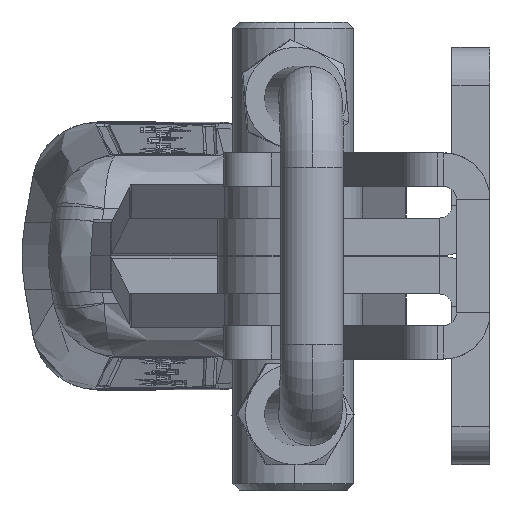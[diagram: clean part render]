
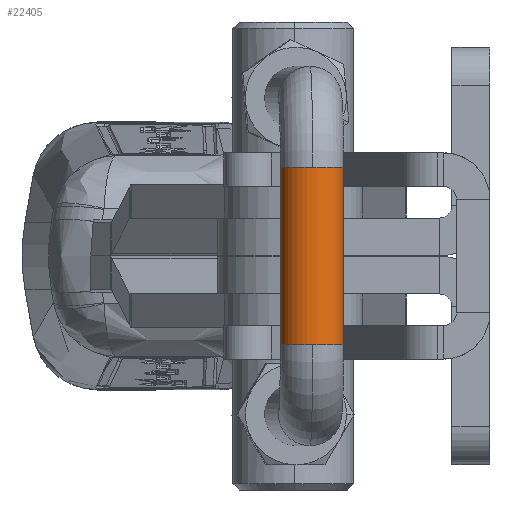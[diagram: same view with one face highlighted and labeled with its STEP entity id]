
A CAD part, left-side view. The second image highlights one B-rep face of the part: STEP entity #22405.
In plain terms, the highlighted cylindrical face has radius 2.5 mm (diameter 5 mm), a partial arc.
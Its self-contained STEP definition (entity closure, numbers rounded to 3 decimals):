
#360 = ORIENTED_EDGE ( 'NONE', *, *, #6590, .T. ) ;
#1803 = VERTEX_POINT ( 'NONE', #3742 ) ;
#2137 = CARTESIAN_POINT ( 'NONE',  ( 7., 67.5, 0. ) ) ;
#2349 = DIRECTION ( 'NONE',  ( 0., 0., 1. ) ) ;
#2521 = DIRECTION ( 'NONE',  ( 1., 0., 0. ) ) ;
#3742 = CARTESIAN_POINT ( 'NONE',  ( -7., 70., 0. ) ) ;
#3788 = LINE ( 'NONE', #14388, #16404 ) ;
#4174 = CARTESIAN_POINT ( 'NONE',  ( -7., 67.5, 2.5 ) ) ;
#4456 = ORIENTED_EDGE ( 'NONE', *, *, #13094, .F. ) ;
#4826 = DIRECTION ( 'NONE',  ( 0., 0., 1. ) ) ;
#4860 = CARTESIAN_POINT ( 'NONE',  ( 7., 67.5, 2.5 ) ) ;
#6590 = EDGE_CURVE ( 'NONE', #1803, #26727, #27380, .T. ) ;
#7360 = EDGE_CURVE ( 'NONE', #24107, #25596, #33642, .T. ) ;
#8556 = CARTESIAN_POINT ( 'NONE',  ( -7., 67.5, -2.5 ) ) ;
#8710 = FACE_OUTER_BOUND ( 'NONE', #11531, .T. ) ;
#9446 = EDGE_CURVE ( 'NONE', #10723, #15832, #10818, .T. ) ;
#10723 = VERTEX_POINT ( 'NONE', #32392 ) ;
#10818 = CIRCLE ( 'NONE', #15776, 2.5 ) ;
#11372 = ORIENTED_EDGE ( 'NONE', *, *, #17005, .T. ) ;
#11481 = CARTESIAN_POINT ( 'NONE',  ( 7., 67.5, 0. ) ) ;
#11516 = EDGE_CURVE ( 'NONE', #24107, #1803, #22051, .T. ) ;
#11531 = EDGE_LOOP ( 'NONE', ( #31806, #360, #11372, #20529, #4456, #19469 ) ) ;
#13094 = EDGE_CURVE ( 'NONE', #25596, #10723, #28414, .T. ) ;
#14161 = DIRECTION ( 'NONE',  ( 0., 0., 1. ) ) ;
#14388 = CARTESIAN_POINT ( 'NONE',  ( -7., 67.5, 2.5 ) ) ;
#15776 = AXIS2_PLACEMENT_3D ( 'NONE', #2137, #20949, #4826 ) ;
#15832 = VERTEX_POINT ( 'NONE', #4860 ) ;
#16404 = VECTOR ( 'NONE', #27848, 1000. ) ;
#17005 = EDGE_CURVE ( 'NONE', #26727, #15832, #3788, .T. ) ;
#17068 = CARTESIAN_POINT ( 'NONE',  ( -7., 67.5, 0. ) ) ;
#17233 = AXIS2_PLACEMENT_3D ( 'NONE', #34596, #18403, #2349 ) ;
#17281 = DIRECTION ( 'NONE',  ( 1., 0., 0. ) ) ;
#18403 = DIRECTION ( 'NONE',  ( 1., 0., 0. ) ) ;
#18579 = CARTESIAN_POINT ( 'NONE',  ( -7., 67.5, 0. ) ) ;
#19469 = ORIENTED_EDGE ( 'NONE', *, *, #7360, .F. ) ;
#20003 = CARTESIAN_POINT ( 'NONE',  ( -7., 67.5, -2.5 ) ) ;
#20529 = ORIENTED_EDGE ( 'NONE', *, *, #9446, .F. ) ;
#20949 = DIRECTION ( 'NONE',  ( 1., 0., 0. ) ) ;
#21327 = DIRECTION ( 'NONE',  ( 0., 0., 1. ) ) ;
#22051 = CIRCLE ( 'NONE', #28176, 2.5 ) ;
#22123 = CYLINDRICAL_SURFACE ( 'NONE', #33991, 2.5 ) ;
#22381 = DIRECTION ( 'NONE',  ( 1., 0., 0. ) ) ;
#22405 = ADVANCED_FACE ( 'NONE', ( #8710 ), #22123, .T. ) ;
#23666 = CARTESIAN_POINT ( 'NONE',  ( 7., 67.5, -2.5 ) ) ;
#24107 = VERTEX_POINT ( 'NONE', #8556 ) ;
#25596 = VERTEX_POINT ( 'NONE', #23666 ) ;
#26481 = VECTOR ( 'NONE', #17281, 1000. ) ;
#26727 = VERTEX_POINT ( 'NONE', #4174 ) ;
#27380 = CIRCLE ( 'NONE', #17233, 2.5 ) ;
#27848 = DIRECTION ( 'NONE',  ( 1., 0., 0. ) ) ;
#28176 = AXIS2_PLACEMENT_3D ( 'NONE', #18579, #2521, #21327 ) ;
#28414 = CIRCLE ( 'NONE', #29565, 2.5 ) ;
#29565 = AXIS2_PLACEMENT_3D ( 'NONE', #11481, #30331, #14161 ) ;
#30331 = DIRECTION ( 'NONE',  ( 1., 0., 0. ) ) ;
#31806 = ORIENTED_EDGE ( 'NONE', *, *, #11516, .T. ) ;
#32392 = CARTESIAN_POINT ( 'NONE',  ( 7., 70., 0. ) ) ;
#33375 = DIRECTION ( 'NONE',  ( 0., 0., -1. ) ) ;
#33642 = LINE ( 'NONE', #20003, #26481 ) ;
#33991 = AXIS2_PLACEMENT_3D ( 'NONE', #17068, #22381, #33375 ) ;
#34596 = CARTESIAN_POINT ( 'NONE',  ( -7., 67.5, 0. ) ) ;
